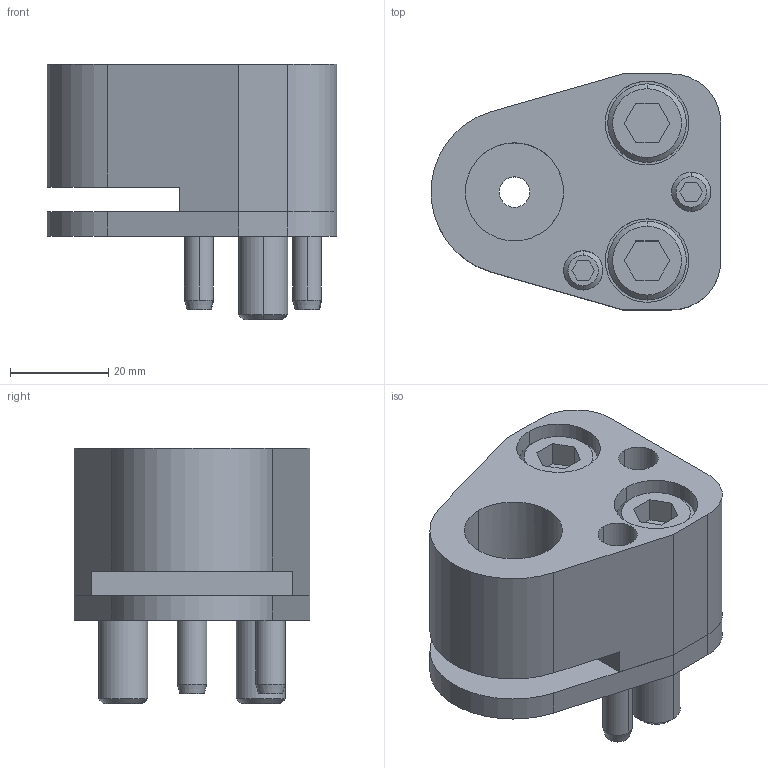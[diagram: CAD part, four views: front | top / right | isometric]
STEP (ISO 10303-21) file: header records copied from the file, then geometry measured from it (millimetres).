
FILE_DESCRIPTION(/* description */ (''),/* implementation_level */ '2;1');
FILE_NAME(/* name */ '3d_cp-fp20_03602_r00.stp',/* time_stamp */ '2011-01-10T14:16:27+09:00',/* author */ ('MISUMI'),/* organization */ (''),/* preprocessor_version */ 'ST-DEVELOPER v11',/* originating_system */ 'UGS - NX 5.0',/* authorisation */ '');
FILE_SCHEMA (('CONFIG_CONTROL_DESIGN'));
Length unit declared in the file: millimetre
Products named in the file (1): 3d_cp-fp20_03602_r00
Bounding box: 58.94 x 48 x 52 mm (x, y, z)
Volume: 66934.7 mm3; surface area: 26198.6 mm2
Topology: 8 solids, 8 shells, 154 faces, 352 edges, 227 vertices
Faces by surface type: plane 68, cylinder 60, cone 26
Entity records: 4514 total; most frequent: DIRECTION 802, CARTESIAN_POINT 791, ORIENTED_EDGE 704, EDGE_CURVE 352, AXIS2_PLACEMENT_3D 302, VERTEX_POINT 227, LINE 198, VECTOR 198
